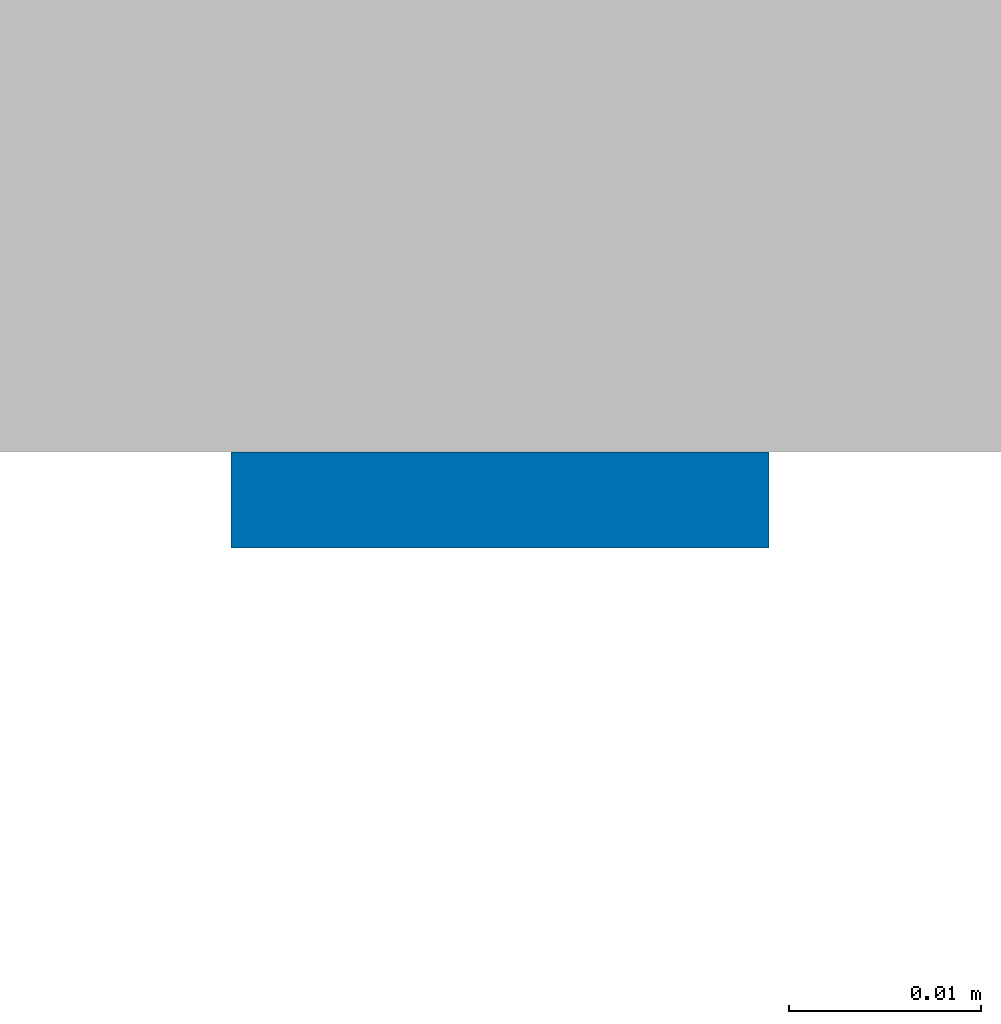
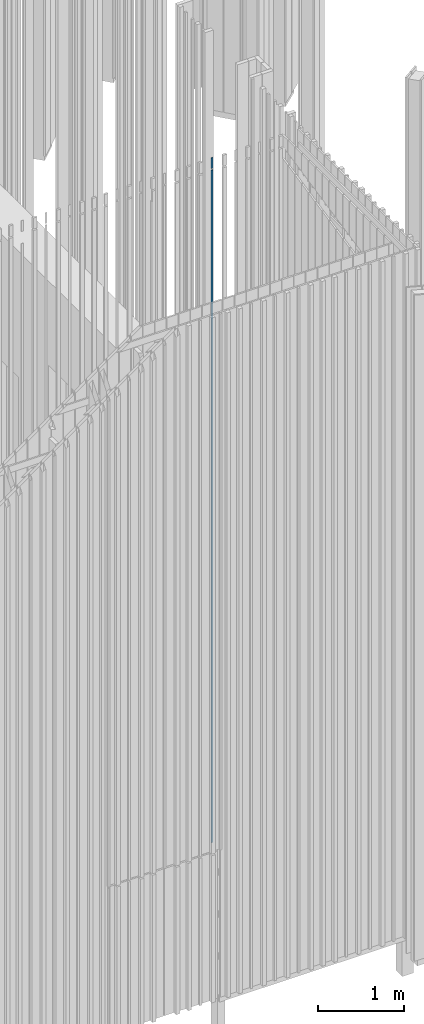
# One storey, part 172 of 390: 1 wall.
"""IFC2X3 building model written with IfcOpenShell, lengths in millimetres."""

import ifcopenshell
import ifcopenshell.guid

model = None  # the IFC model being written
_history = None  # IfcOwnerHistory: only IFC2X3 demands one
_inside = {}  # id of a spatial element -> (the spatial element, [elements in it])
_under = {}  # id of a project, library or spatial element -> (it, [spatial elements below it])
_declared = {}  # id of a project -> (the project, [libraries it declares])
_typed = {}  # id of a type object -> (the type object, [elements of that type])
_made_of = {}  # id of a material, layer set ... -> (it, [elements and type objects made of it])


def new_model(schema):
    """Start an empty IFC model of exactly this schema.

    Asked for "IFC4X3", IfcOpenShell would pick the latest addendum, in which some entities
    have other attributes; the version numbers below select the first issue.
    IFC2X3 requires an IfcOwnerHistory on every rooted entity: one is made here for all.
    """
    global model, _history
    if schema == "IFC4X3":
        model = ifcopenshell.file(schema_version=(4, 3, 0, 0))
    else:
        model = ifcopenshell.file(schema=schema)
    _inside.clear()
    _under.clear()
    _declared.clear()
    _typed.clear()
    _made_of.clear()
    _history = None
    if model.schema == "IFC2X3":
        org = make("IfcOrganization", Name="unknown")
        user = make(
            "IfcPersonAndOrganization",
            ThePerson=make("IfcPerson", FamilyName="unknown"),
            TheOrganization=org,
        )
        app = make(
            "IfcApplication",
            ApplicationDeveloper=org,
            Version="unknown",
            ApplicationFullName="unknown",
            ApplicationIdentifier="unknown",
        )
        _history = make(
            "IfcOwnerHistory",
            OwningUser=user,
            OwningApplication=app,
            ChangeAction="ADDED",
            CreationDate=0,
        )
    return model


def make(cls, **values):
    """One entity of the class cls with the attributes given. An attribute that is None is left unset."""
    return model.create_entity(
        cls, **{name: value for name, value in values.items() if value is not None}
    )


def entity(cls, *values):
    """Any entity or typed value of the class cls, its attributes in the order of the schema. None: left unset."""
    e = model.create_entity(cls)
    for i, value in enumerate(values):
        if value is not None:
            e[i] = value
    return e


def rooted(cls, **values):
    """An entity with a GlobalId (a new one), such as an element, a storey or a relation."""
    return make(cls, GlobalId=ifcopenshell.guid.new(), OwnerHistory=_history, **values)


def si_unit(unit_type, name, prefix=None):
    """IfcSIUnit, for example si_unit("LENGTHUNIT", "METRE", prefix="MILLI")."""
    return make("IfcSIUnit", UnitType=unit_type, Prefix=prefix, Name=name)


def converted_unit(unit_type, name, factor, base, dimensions=None, offset=None):
    """IfcConversionBasedUnit, such as the inch: factor (a typed value) times the base unit."""
    return make(
        "IfcConversionBasedUnit"
        if offset is None
        else "IfcConversionBasedUnitWithOffset",
        ConversionOffset=offset,
        Dimensions=None
        if dimensions is None
        else entity("IfcDimensionalExponents", *dimensions),
        UnitType=unit_type,
        Name=name,
        ConversionFactor=make(
            "IfcMeasureWithUnit", ValueComponent=factor, UnitComponent=base
        ),
    )


def derived_unit(unit_type, elements):
    """IfcDerivedUnit: a product of units, each with its exponent."""
    return make(
        "IfcDerivedUnit",
        Elements=[
            make("IfcDerivedUnitElement", Unit=unit, Exponent=power)
            for unit, power in elements
        ],
        UnitType=unit_type,
    )


def money_unit(currency):
    """IfcMonetaryUnit."""
    return make("IfcMonetaryUnit", Currency=currency)


def assignment(units):
    """IfcUnitAssignment: the units of a project."""
    return None if units is None else make("IfcUnitAssignment", Units=units)


def point(xyz):
    """IfcCartesianPoint."""
    return None if xyz is None else make("IfcCartesianPoint", Coordinates=xyz)


def direction(xyz):
    """IfcDirection."""
    return None if xyz is None else make("IfcDirection", DirectionRatios=xyz)


def frame(location, z_axis=None, x_axis=None):
    """IfcAxis2Placement3D, a coordinate frame: its origin and axes. An axis left out is left unset."""
    return make(
        "IfcAxis2Placement3D",
        Location=point(location),
        Axis=direction(z_axis),
        RefDirection=direction(x_axis),
    )


def origin_with_axes():
    """The frame at (0, 0, 0) with the z axis (0, 0, 1) and the x axis (1, 0, 0) written out."""
    return frame((0.0, 0.0, 0.0), z_axis=(0.0, 0.0, 1.0), x_axis=(1.0, 0.0, 0.0))


def place(relative_to, where):
    """IfcLocalPlacement: puts the frame where relative to a parent placement (None: the world)."""
    return make(
        "IfcLocalPlacement", PlacementRelTo=relative_to, RelativePlacement=where
    )


def context(
    kind, dimensions, precision=None, world=None, true_north=None, identifier=None
):
    """IfcGeometricRepresentationContext, for example the 3D "Model" context."""
    return make(
        "IfcGeometricRepresentationContext",
        ContextIdentifier=identifier,
        ContextType=kind,
        CoordinateSpaceDimension=dimensions,
        Precision=precision,
        WorldCoordinateSystem=world,
        TrueNorth=true_north,
    )


def subcontext(parent, identifier, kind, view, scale=None):
    """IfcGeometricRepresentationSubContext, for example "Body" below "Model"."""
    return make(
        "IfcGeometricRepresentationSubContext",
        ContextIdentifier=identifier,
        ContextType=kind,
        ParentContext=parent,
        TargetScale=scale,
        TargetView=view,
    )


def project(units=None, contexts=None):
    """IfcProject with its units and contexts."""
    return rooted(
        "IfcProject",
        Name="project",
        RepresentationContexts=contexts,
        UnitsInContext=assignment(units),
    )


def spatial(cls, under=None, at=None, **own):
    """A site, building, storey or space (cls), placed at a placement, below another one or the project."""
    s = rooted(cls, ObjectPlacement=at, **own)
    if under is not None:
        _under.setdefault(under.id(), (under, []))[1].append(s)
    return s


def faces_of(points, faces, orient=None, outer=None):
    """IfcFace entities. A face is a list of loops; a loop is a list of indices into points, from 0.

    orient and outer hold one flag for each loop. By default every Orientation is true, the
    first loop of a face is its IfcFaceOuterBound and the others are IfcFaceBound.
    """
    made = []
    for i, loops in enumerate(faces):
        bounds = []
        for j, loop in enumerate(loops):
            is_outer = j == 0 if outer is None else outer[i][j]
            bounds.append(
                make(
                    "IfcFaceOuterBound" if is_outer else "IfcFaceBound",
                    Bound=make("IfcPolyLoop", Polygon=[points[k] for k in loop]),
                    Orientation=True if orient is None else orient[i][j],
                )
            )
        made.append(make("IfcFace", Bounds=bounds))
    return made


def faceted_brep(points, faces, orient=None, outer=None, voids=None):
    """IfcFacetedBrep: a solid bounded by flat faces; with voids (closed shells), ...WithVoids."""
    shared = [point(p) for p in points]
    hull = make("IfcClosedShell", CfsFaces=faces_of(shared, faces, orient, outer))
    if voids is None:
        return make("IfcFacetedBrep", Outer=hull)
    return make(
        "IfcFacetedBrepWithVoids",
        Outer=hull,
        Voids=[
            make(cls, CfsFaces=faces_of(shared, fs, o, b)) for cls, fs, o, b in voids
        ],
    )


def shape(context_of_items, identifier, shape_type, items):
    """IfcShapeRepresentation: the items that make up one representation, for example the "Body"."""
    return make(
        "IfcShapeRepresentation",
        ContextOfItems=context_of_items,
        RepresentationIdentifier=identifier,
        RepresentationType=shape_type,
        Items=items,
    )


def material(Name=None, Category=None):
    """IfcMaterial."""
    return make("IfcMaterial", Name=Name, Category=Category)


def material_list(materials):
    """IfcMaterialList."""
    return make("IfcMaterialList", Materials=materials)


def made_of(thing, what):
    """Note that an element or type object is made of a material, layer set ...; save() writes the relation."""
    if what is not None:
        _made_of.setdefault(what.id(), (what, []))[1].append(thing)
    return thing


def type_object(cls, material=None, **own):
    """A type object (cls), such as IfcWallType, which elements share."""
    return made_of(rooted(cls, **own), material)


def element(
    cls,
    number,
    at=None,
    inside=None,
    cuts=None,
    type_object=None,
    material=None,
    context=None,
    identifier="Body",
    shape_type=None,
    held_by="IfcProductDefinitionShape",
    body=None,
    shapes=None,
    **own,
):
    """One element of the class cls, such as IfcWall. Its Tag is "e" and its number.

    at: its placement. inside: the storey or other place that contains it. cuts: it is an
    opening in that element (IfcRelVoidsElement). A single representation is given by context,
    identifier, shape_type and body (its items); several are given by shapes. held_by: the class
    of the entity that holds the representations. save() writes the other relations.
    """
    e = rooted(cls, Tag="e%d" % number, ObjectPlacement=at, **own)
    if body is not None:
        shapes = [shape(context, identifier, shape_type, body)]
    if shapes is not None:
        e.Representation = make(held_by, Representations=shapes)
    if inside is not None:
        _inside.setdefault(inside.id(), (inside, []))[1].append(e)
    if cuts is not None:
        rooted(
            "IfcRelVoidsElement", RelatingBuildingElement=cuts, RelatedOpeningElement=e
        )
    if type_object is not None:
        _typed.setdefault(type_object.id(), (type_object, []))[1].append(e)
    return made_of(e, material)


def aggregate(whole, parts):
    """IfcRelAggregates: a whole, such as a stair, and the parts it consists of."""
    return rooted("IfcRelAggregates", RelatingObject=whole, RelatedObjects=parts)


def save(model, path):
    """Write the relations noted so far, then the file.

    IfcRelAggregates (storeys below a building ...), IfcRelContainedInSpatialStructure (elements
    in a storey), IfcRelDefinesByType, IfcRelAssociatesMaterial and IfcRelDeclares: one each for
    every whole, place, type object, material and project.
    """
    for whole, parts in _under.values():
        aggregate(whole, parts)
    for where, things in _inside.values():
        rooted(
            "IfcRelContainedInSpatialStructure",
            RelatedElements=things,
            RelatingStructure=where,
        )
    for kind, things in _typed.values():
        rooted("IfcRelDefinesByType", RelatedObjects=things, RelatingType=kind)
    for what, things in _made_of.values():
        rooted("IfcRelAssociatesMaterial", RelatedObjects=things, RelatingMaterial=what)
    for by, libraries in _declared.values():
        rooted("IfcRelDeclares", RelatingContext=by, RelatedDefinitions=libraries)
    model.write(path)


model = new_model("IFC2X3")

# Units and contexts
model_context = context("Model", 3, precision=1e-05, world=origin_with_axes(), true_north=direction((0.0, 1.0)))
body_context = subcontext(model_context, "Body", "Model", "MODEL_VIEW")
ifc_project = project(units=[si_unit("LENGTHUNIT", "METRE", prefix="MILLI"), si_unit("AREAUNIT", "SQUARE_METRE"), si_unit("VOLUMEUNIT", "CUBIC_METRE"), converted_unit("PLANEANGLEUNIT", "DEGREE", entity("IfcPlaneAngleMeasure", 0.0174532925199), si_unit("PLANEANGLEUNIT", "RADIAN"), dimensions=[0, 0, 0, 0, 0, 0, 0]), si_unit("SOLIDANGLEUNIT", "STERADIAN"), money_unit("EUR"), converted_unit("TIMEUNIT", "Year", entity("IfcTimeMeasure", 31556926.0), si_unit("TIMEUNIT", "SECOND"), dimensions=[0, 0, 1, 0, 0, 0, 0]), si_unit("MASSUNIT", "GRAM", prefix="KILO"), si_unit("THERMODYNAMICTEMPERATUREUNIT", "DEGREE_CELSIUS"), si_unit("LUMINOUSINTENSITYUNIT", "LUMEN"), si_unit("ENERGYUNIT", "JOULE", prefix="MEGA"), derived_unit("THERMALCONDUCTANCEUNIT", [(si_unit("POWERUNIT", "WATT"), 1), (si_unit("LENGTHUNIT", "METRE"), -1), (si_unit("THERMODYNAMICTEMPERATUREUNIT", "KELVIN"), -1)]), derived_unit("SPECIFICHEATCAPACITYUNIT", [(si_unit("ENERGYUNIT", "JOULE"), 1), (si_unit("MASSUNIT", "GRAM", prefix="KILO"), -1), (si_unit("THERMODYNAMICTEMPERATUREUNIT", "KELVIN"), -1)]), derived_unit("MASSDENSITYUNIT", [(si_unit("MASSUNIT", "GRAM", prefix="KILO"), 1), (si_unit("VOLUMEUNIT", "CUBIC_METRE"), -1)])], contexts=[model_context])

# Site, building, storey
site_placement = place(None, origin_with_axes())
site = spatial("IfcSite", under=ifc_project, at=site_placement, Name="Site", CompositionType="ELEMENT")
building_placement = place(site_placement, origin_with_axes())
building = spatial("IfcBuilding", under=site, at=building_placement, Name="Building", CompositionType="ELEMENT")
storey_placement = place(building_placement, origin_with_axes())
storey = spatial("IfcBuildingStorey", under=building, at=storey_placement, Name="1 korrus", CompositionType="ELEMENT", Elevation=0.0)

# Wall
ifc_material = material(Name="Site specified")
ifc_material_list = material_list([ifc_material, ifc_material])
wall_type = type_object("IfcWallType", Name="Puitfassaadi ribistik", PredefinedType="NOTDEFINED")
wall_placement = place(storey_placement, frame((138584.000037, 45271.9999592, 100.000000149), z_axis=(0.0, 0.0, 1.0), x_axis=(-1.0, 0.0, 0.0)))
element("IfcWall", 1, at=wall_placement, inside=storey, type_object=wall_type, material=ifc_material_list, Name="Site specified", context=body_context, shape_type="Brep", body=[
    faceted_brep([(14.0, 9.00004713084, -3.12924797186e-06), (14.0, 8.99995081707, 9591.91725957), (-14.0, 8.99995081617, 9591.91725957), (-14.0, 9.00004712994, -3.12924797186e-06), (14.0, 14.0, 0.0), (14.0, 14.0, 9590.85446631), (-14.0, 14.0, 9590.85446631), (-14.0, 14.0, 0.0)], [[[0, 1, 2, 3]], [[4, 5, 1, 0]], [[5, 6, 2, 1]], [[3, 2, 6, 7]], [[0, 3, 7, 4]], [[7, 6, 5, 4]]]),
    faceted_brep([(-14.0, 14.0, 9764.99999985), (-14.0, 14.0, 9612.3236188), (-14.0, 8.99995081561, 9613.38641206), (-14.0, 8.99995081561, 9764.99999985), (14.0, 14.0, 9764.99999985), (14.0, 14.0, 9612.3236188), (14.0, 8.99995081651, 9613.38641206), (14.0, 8.99995081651, 9764.99999985)], [[[0, 1, 2, 3]], [[4, 5, 1, 0]], [[5, 6, 2, 1]], [[3, 2, 6, 7]], [[3, 7, 4, 0]], [[7, 6, 5, 4]]]),
])

save(model, "model.ifc")
